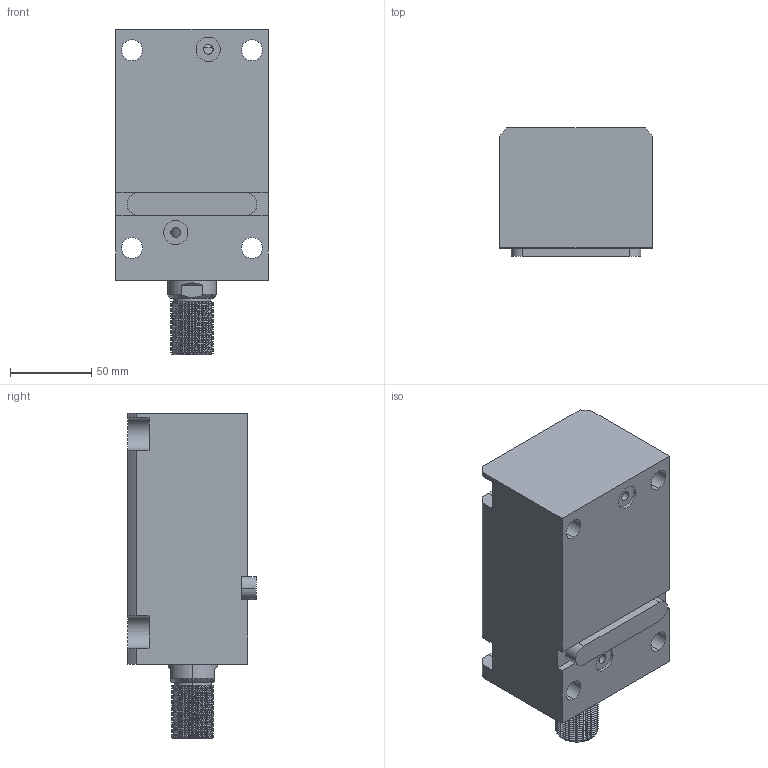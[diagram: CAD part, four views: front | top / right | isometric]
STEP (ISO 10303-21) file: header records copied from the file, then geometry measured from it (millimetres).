
FILE_DESCRIPTION (( 'STEP AP203' ), '1' );
FILE_NAME ('CHTB-LAM50-95W.STEP', '2018-05-23T11:26:05', ( '' ), ( '' ), 'SwSTEP 2.0', 'SolidWorks 2015', '' );
FILE_SCHEMA (( 'CONFIG_CONTROL_DESIGN' ));
Length unit declared in the file: millimetre
Products named in the file (4): 活塞杆LAM50-95W; 掛极LAM50-95W; CHTM-SDMA50QG; CHTB-LAM50-95W
Assembly tree (3 placements, depth 2):
  CHTB-LAM50-95W
    掛极LAM50-95W
    活塞杆LAM50-95W
    CHTM-SDMA50QG
Bounding box: 94 x 79 x 201 mm (x, y, z)
Volume: 929259.9 mm3; surface area: 141600.9 mm2
Topology: 3 solids, 3 shells, 234 faces, 652 edges, 436 vertices
Faces by surface type: cylinder 136, plane 53, bspline 16, torus 16, cone 13
Entity records: 14802 total; most frequent: CARTESIAN_POINT 8867, ORIENTED_EDGE 1296, DIRECTION 1023, EDGE_CURVE 648, VERTEX_POINT 436, AXIS2_PLACEMENT_3D 395, EDGE_LOOP 264, FACE_OUTER_BOUND 234
